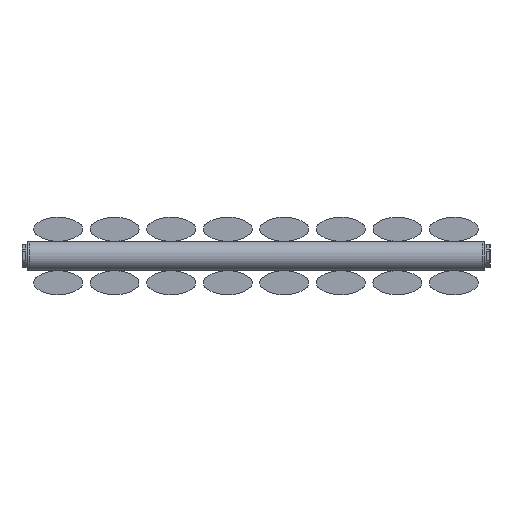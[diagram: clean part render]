
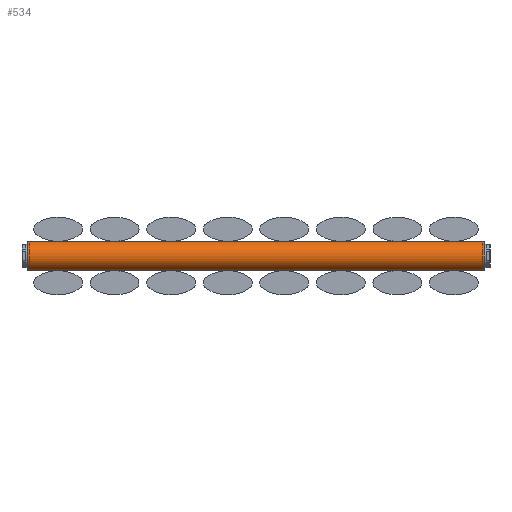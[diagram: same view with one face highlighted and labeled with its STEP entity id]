
A CAD part, left-side view. The second image highlights one B-rep face of the part: STEP entity #534.
In plain terms, the highlighted cylindrical face has radius 15 mm (diameter 30 mm), a full revolution.
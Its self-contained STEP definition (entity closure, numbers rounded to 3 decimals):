
#208=FACE_BOUND('',#248,.T.);
#217=FACE_OUTER_BOUND('',#247,.T.);
#247=EDGE_LOOP('',(#412));
#248=EDGE_LOOP('',(#413));
#285=CIRCLE('',#609,15.);
#286=CIRCLE('',#610,15.);
#314=VERTEX_POINT('',#906);
#315=VERTEX_POINT('',#908);
#355=EDGE_CURVE('',#314,#314,#285,.T.);
#356=EDGE_CURVE('',#315,#315,#286,.T.);
#412=ORIENTED_EDGE('',*,*,#355,.F.);
#413=ORIENTED_EDGE('',*,*,#356,.F.);
#525=CYLINDRICAL_SURFACE('',#608,15.);
#534=ADVANCED_FACE('',(#217,#208),#525,.T.);
#608=AXIS2_PLACEMENT_3D('',#905,#702,#703);
#609=AXIS2_PLACEMENT_3D('',#907,#704,#705);
#610=AXIS2_PLACEMENT_3D('',#909,#706,#707);
#702=DIRECTION('center_axis',(0.,0.,1.));
#703=DIRECTION('ref_axis',(-1.,0.,0.));
#704=DIRECTION('center_axis',(0.,0.,1.));
#705=DIRECTION('ref_axis',(-1.,0.,0.));
#706=DIRECTION('center_axis',(0.,0.,-1.));
#707=DIRECTION('ref_axis',(-1.,0.,0.));
#905=CARTESIAN_POINT('Origin',(0.,-15.,0.));
#906=CARTESIAN_POINT('',(15.,-15.,468.));
#907=CARTESIAN_POINT('Origin',(0.,-15.,468.));
#908=CARTESIAN_POINT('',(15.,-15.,0.));
#909=CARTESIAN_POINT('Origin',(0.,-15.,0.));
